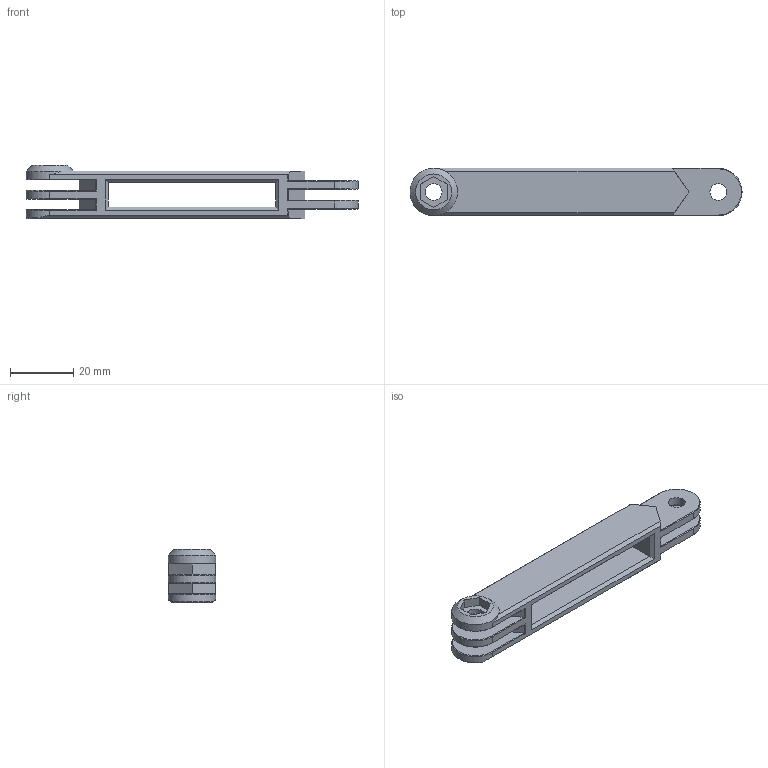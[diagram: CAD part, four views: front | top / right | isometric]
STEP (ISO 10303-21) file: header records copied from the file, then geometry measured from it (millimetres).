
FILE_DESCRIPTION(/* description */ ('STEP AP214'),/* implementation_level */ '2;1');
FILE_NAME(/* name */ '60a1426825d25912eeacacfb',/* time_stamp */ '2021-05-16T16:03:53+00:00',/* author */ (''),/* organization */ (''),/* preprocessor_version */ 'ST-DEVELOPER v18.1',/* originating_system */ ' ',/* authorisation */ ' ');
FILE_SCHEMA (('AUTOMOTIVE_DESIGN {1 0 10303 214 3 1 1}'));
Length unit declared in the file: metre
Products named in the file (1): Arm Straight
Bounding box: 105 x 15 x 16.8 mm (x, y, z)
Volume: 11905.6 mm3; surface area: 8256.2 mm2
Topology: 1 solids, 1 shells, 92 faces, 246 edges, 157 vertices
Faces by surface type: plane 72, cylinder 10, cone 10
Full cylindrical faces by diameter (mm): 5.3 x5
Entity records: 2789 total; most frequent: CARTESIAN_POINT 484, ORIENTED_EDGE 468, DIRECTION 453, EDGE_CURVE 234, LINE 197, VECTOR 197, VERTEX_POINT 151, AXIS2_PLACEMENT_3D 128
